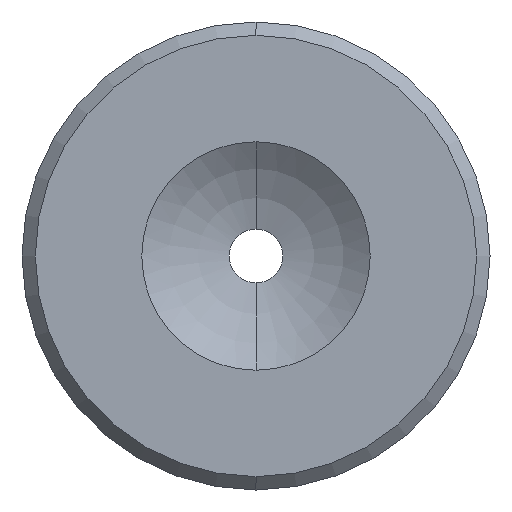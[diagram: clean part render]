
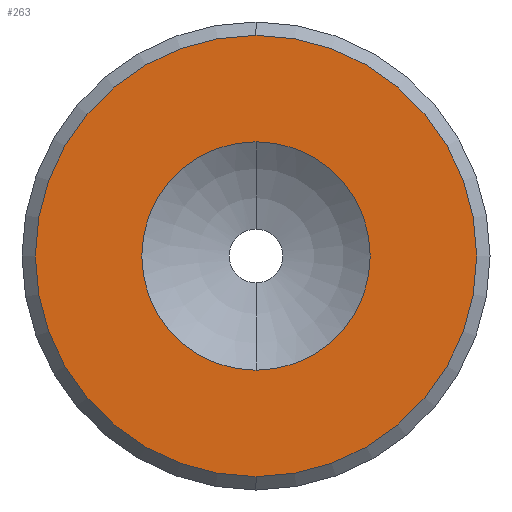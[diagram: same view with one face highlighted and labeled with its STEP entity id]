
A CAD part, left-side view. The second image highlights one B-rep face of the part: STEP entity #263.
In plain terms, the highlighted planar face has unit normal (-1, 0, 0).
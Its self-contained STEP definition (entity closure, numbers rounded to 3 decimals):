
#5 = PLANE ( 'NONE',  #438 ) ;
#8 = CARTESIAN_POINT ( 'NONE',  ( 0., 0., -16.5 ) ) ;
#41 = ORIENTED_EDGE ( 'NONE', *, *, #257, .F. ) ;
#49 = CARTESIAN_POINT ( 'NONE',  ( 0., 0., 8.545 ) ) ;
#50 = CARTESIAN_POINT ( 'NONE',  ( 0., 0., 0. ) ) ;
#78 = FACE_OUTER_BOUND ( 'NONE', #310, .T. ) ;
#81 = EDGE_LOOP ( 'NONE', ( #41, #390 ) ) ;
#96 = DIRECTION ( 'NONE',  ( -1., 0., 0. ) ) ;
#104 = AXIS2_PLACEMENT_3D ( 'NONE', #259, #96, #482 ) ;
#113 = AXIS2_PLACEMENT_3D ( 'NONE', #360, #394, #171 ) ;
#116 = EDGE_CURVE ( 'NONE', #134, #152, #362, .T. ) ;
#118 = ORIENTED_EDGE ( 'NONE', *, *, #309, .T. ) ;
#124 = FACE_BOUND ( 'NONE', #81, .T. ) ;
#134 = VERTEX_POINT ( 'NONE', #335 ) ;
#152 = VERTEX_POINT ( 'NONE', #49 ) ;
#163 = CARTESIAN_POINT ( 'NONE',  ( 0., 0., 16.5 ) ) ;
#164 = CARTESIAN_POINT ( 'NONE',  ( 0., 0., 0. ) ) ;
#171 = DIRECTION ( 'NONE',  ( 0., 0., -1. ) ) ;
#178 = ORIENTED_EDGE ( 'NONE', *, *, #192, .T. ) ;
#189 = CIRCLE ( 'NONE', #365, 8.545 ) ;
#192 = EDGE_CURVE ( 'NONE', #443, #275, #283, .T. ) ;
#200 = DIRECTION ( 'NONE',  ( 0., 0., 1. ) ) ;
#235 = DIRECTION ( 'NONE',  ( 0., 0., -1. ) ) ;
#257 = EDGE_CURVE ( 'NONE', #152, #134, #189, .T. ) ;
#259 = CARTESIAN_POINT ( 'NONE',  ( 0., 0., 0. ) ) ;
#263 = ADVANCED_FACE ( 'NONE', ( #78, #124 ), #5, .F. ) ;
#275 = VERTEX_POINT ( 'NONE', #8 ) ;
#283 = CIRCLE ( 'NONE', #316, 16.5 ) ;
#309 = EDGE_CURVE ( 'NONE', #275, #443, #449, .T. ) ;
#310 = EDGE_LOOP ( 'NONE', ( #118, #178 ) ) ;
#316 = AXIS2_PLACEMENT_3D ( 'NONE', #164, #356, #330 ) ;
#330 = DIRECTION ( 'NONE',  ( 0., 0., -1. ) ) ;
#335 = CARTESIAN_POINT ( 'NONE',  ( 0., 0., -8.545 ) ) ;
#356 = DIRECTION ( 'NONE',  ( -1., 0., 0. ) ) ;
#360 = CARTESIAN_POINT ( 'NONE',  ( 0., 0., 0. ) ) ;
#362 = CIRCLE ( 'NONE', #104, 8.545 ) ;
#365 = AXIS2_PLACEMENT_3D ( 'NONE', #50, #366, #200 ) ;
#366 = DIRECTION ( 'NONE',  ( -1., 0., 0. ) ) ;
#369 = DIRECTION ( 'NONE',  ( 1., 0., 0. ) ) ;
#390 = ORIENTED_EDGE ( 'NONE', *, *, #116, .F. ) ;
#394 = DIRECTION ( 'NONE',  ( -1., 0., 0. ) ) ;
#434 = CARTESIAN_POINT ( 'NONE',  ( 0., 8.545, 0. ) ) ;
#438 = AXIS2_PLACEMENT_3D ( 'NONE', #434, #369, #235 ) ;
#443 = VERTEX_POINT ( 'NONE', #163 ) ;
#449 = CIRCLE ( 'NONE', #113, 16.5 ) ;
#482 = DIRECTION ( 'NONE',  ( 0., 0., 1. ) ) ;
